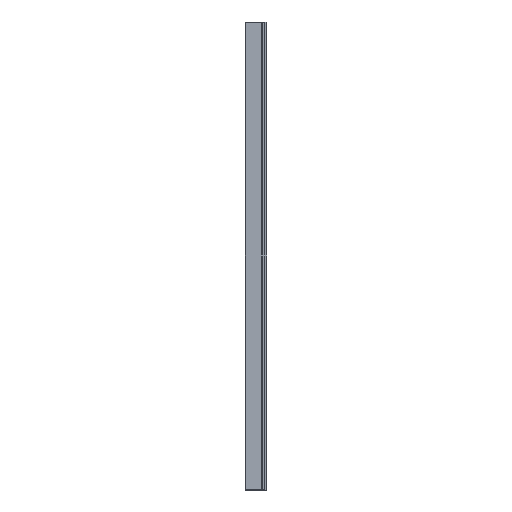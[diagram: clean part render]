
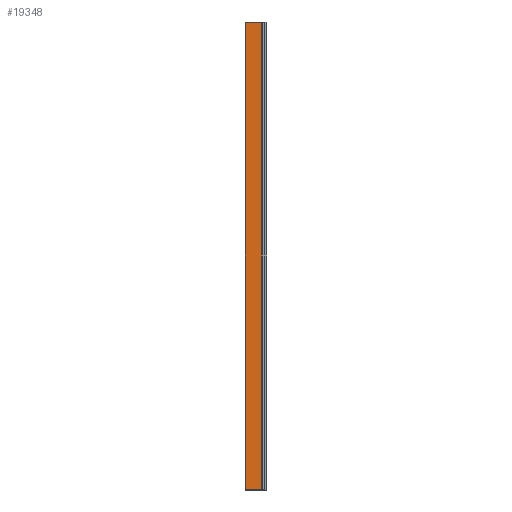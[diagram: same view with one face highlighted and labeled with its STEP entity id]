
A CAD part, left-side view. The second image highlights one B-rep face of the part: STEP entity #19348.
In plain terms, the highlighted planar face has unit normal (-1, 0, 0).
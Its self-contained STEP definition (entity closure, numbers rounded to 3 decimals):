
#311 = VERTEX_POINT ( 'NONE', #22790 ) ;
#1221 = DIRECTION ( 'NONE',  ( 1., 0., 0. ) ) ;
#2197 = CARTESIAN_POINT ( 'NONE',  ( -19., 26.417, 297.5 ) ) ;
#2214 = VECTOR ( 'NONE', #18591, 1000. ) ;
#2283 = VECTOR ( 'NONE', #11578, 1000. ) ;
#2791 = CARTESIAN_POINT ( 'NONE',  ( -19., 26.417, 297.5 ) ) ;
#3025 = CARTESIAN_POINT ( 'NONE',  ( -19., 26.417, -297.5 ) ) ;
#4182 = VERTEX_POINT ( 'NONE', #8215 ) ;
#5333 = LINE ( 'NONE', #2197, #8496 ) ;
#5530 = FACE_OUTER_BOUND ( 'NONE', #28364, .T. ) ;
#5725 = ORIENTED_EDGE ( 'NONE', *, *, #17072, .F. ) ;
#6213 = LINE ( 'NONE', #9323, #2283 ) ;
#7685 = LINE ( 'NONE', #23288, #22580 ) ;
#8215 = CARTESIAN_POINT ( 'NONE',  ( -19., 5.9, 297.5 ) ) ;
#8496 = VECTOR ( 'NONE', #21016, 1000. ) ;
#9323 = CARTESIAN_POINT ( 'NONE',  ( -19., 5.9, 297.5 ) ) ;
#11578 = DIRECTION ( 'NONE',  ( 0., 0., -1. ) ) ;
#14438 = AXIS2_PLACEMENT_3D ( 'NONE', #19289, #1221, #19200 ) ;
#15023 = LINE ( 'NONE', #2791, #2214 ) ;
#16457 = DIRECTION ( 'NONE',  ( 0., -1., 0. ) ) ;
#17072 = EDGE_CURVE ( 'NONE', #311, #4182, #5333, .T. ) ;
#17273 = CARTESIAN_POINT ( 'NONE',  ( -19., 5.9, -297.5 ) ) ;
#18443 = VERTEX_POINT ( 'NONE', #17273 ) ;
#18591 = DIRECTION ( 'NONE',  ( 0., 0., -1. ) ) ;
#18845 = EDGE_CURVE ( 'NONE', #25116, #18443, #7685, .T. ) ;
#19200 = DIRECTION ( 'NONE',  ( 0., 0., -1. ) ) ;
#19289 = CARTESIAN_POINT ( 'NONE',  ( -19., 26.417, 297.5 ) ) ;
#19348 = ADVANCED_FACE ( 'NONE', ( #5530 ), #23843, .F. ) ;
#20286 = EDGE_CURVE ( 'NONE', #311, #25116, #15023, .T. ) ;
#20341 = ORIENTED_EDGE ( 'NONE', *, *, #18845, .T. ) ;
#21016 = DIRECTION ( 'NONE',  ( 0., -1., 0. ) ) ;
#21366 = ORIENTED_EDGE ( 'NONE', *, *, #23625, .F. ) ;
#22580 = VECTOR ( 'NONE', #16457, 1000. ) ;
#22790 = CARTESIAN_POINT ( 'NONE',  ( -19., 26.417, 297.5 ) ) ;
#23288 = CARTESIAN_POINT ( 'NONE',  ( -19., 26.417, -297.5 ) ) ;
#23625 = EDGE_CURVE ( 'NONE', #4182, #18443, #6213, .T. ) ;
#23722 = ORIENTED_EDGE ( 'NONE', *, *, #20286, .T. ) ;
#23843 = PLANE ( 'NONE',  #14438 ) ;
#25116 = VERTEX_POINT ( 'NONE', #3025 ) ;
#28364 = EDGE_LOOP ( 'NONE', ( #20341, #21366, #5725, #23722 ) ) ;
